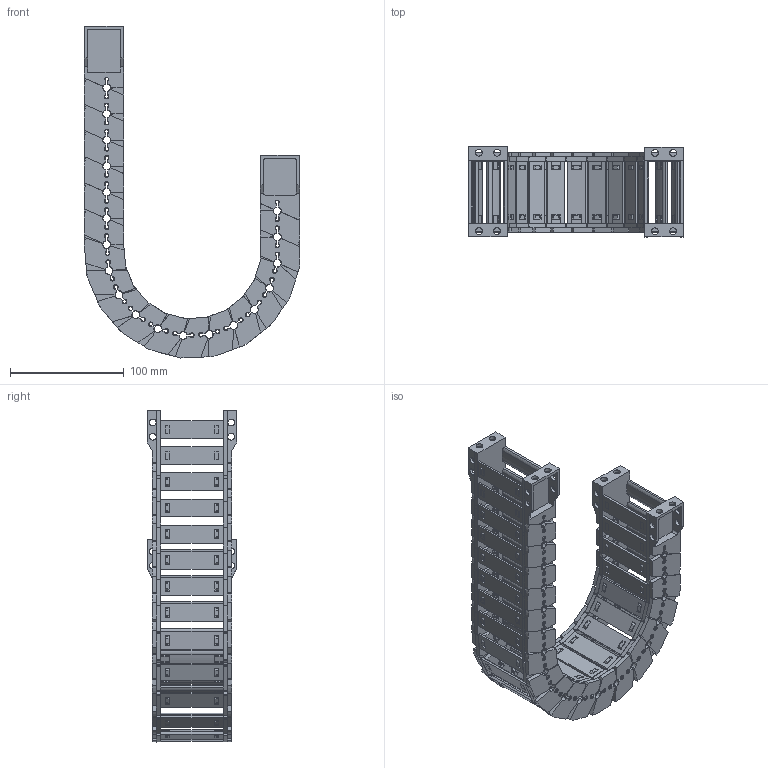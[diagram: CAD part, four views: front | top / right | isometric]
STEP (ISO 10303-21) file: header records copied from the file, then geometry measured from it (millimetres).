
FILE_DESCRIPTION(/* description */ (''),/* implementation_level */ '2;1');
FILE_NAME(/* name */ 'JY28-55-R75.stp',/* time_stamp */ '2026-06-03T14:24:02+08:00',/* author */ (''),/* organization */ (''),/* preprocessor_version */ 'ST-DEVELOPER v19.4',/* originating_system */ 'SIEMENS PLM Software NX2306.5001',/* authorisation */ '');
FILE_SCHEMA (('AP203_CONFIGURATION_CONTROLLED_3D_DESIGN_OF_MECHANICAL_PARTS_AND_ASSEMBLIES_MIM_LF { 1 0 10303 403 2 1 2}'));
Products named in the file (1): _model1_objects
Bounding box: 189.55 x 79 x 292.17 mm (x, y, z)
Volume: 333926.5 mm3; surface area: 244411 mm2
Topology: 74 solids, 74 shells, 6194 faces, 17618 edges, 11518 vertices
Faces by surface type: plane 4058, cone 1120, cylinder 978, bspline 36, torus 2
Full cylindrical faces by diameter (mm): 6 x24
Entity records: 209461 total; most frequent: CARTESIAN_POINT 46487, ORIENTED_EDGE 35144, DIRECTION 33002, EDGE_CURVE 17572, LINE 11632, VECTOR 11632, VERTEX_POINT 11496, AXIS2_PLACEMENT_3D 10685
